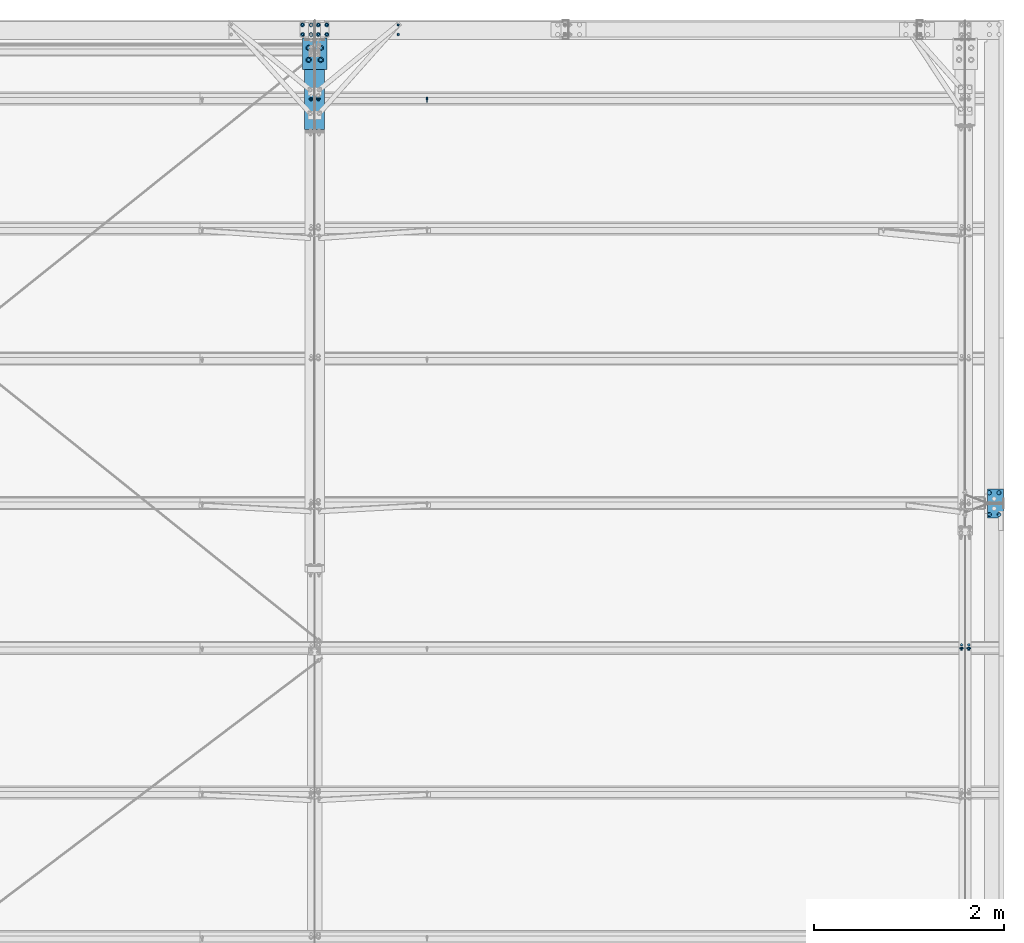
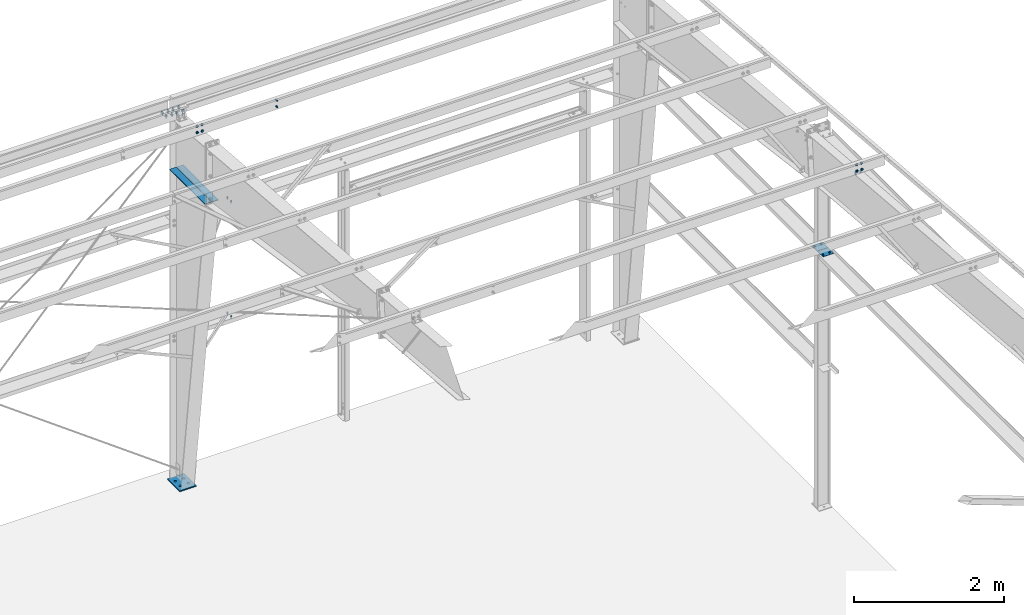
# One storey, part 115 of 185: 15 mechanical fasteners, 5 discrete accessories, 10 elements without a shape of their own.
"""IFC2X3 building model written with IfcOpenShell, lengths in millimetres."""

import ifcopenshell
import ifcopenshell.guid

model = None  # the IFC model being written
_history = None  # IfcOwnerHistory: only IFC2X3 demands one
_inside = {}  # id of a spatial element -> (the spatial element, [elements in it])
_under = {}  # id of a project, library or spatial element -> (it, [spatial elements below it])
_declared = {}  # id of a project -> (the project, [libraries it declares])
_typed = {}  # id of a type object -> (the type object, [elements of that type])
_made_of = {}  # id of a material, layer set ... -> (it, [elements and type objects made of it])


def new_model(schema):
    """Start an empty IFC model of exactly this schema.

    Asked for "IFC4X3", IfcOpenShell would pick the latest addendum, in which some entities
    have other attributes; the version numbers below select the first issue.
    IFC2X3 requires an IfcOwnerHistory on every rooted entity: one is made here for all.
    """
    global model, _history
    if schema == "IFC4X3":
        model = ifcopenshell.file(schema_version=(4, 3, 0, 0))
    else:
        model = ifcopenshell.file(schema=schema)
    _inside.clear()
    _under.clear()
    _declared.clear()
    _typed.clear()
    _made_of.clear()
    _history = None
    if model.schema == "IFC2X3":
        org = make("IfcOrganization", Name="unknown")
        user = make(
            "IfcPersonAndOrganization",
            ThePerson=make("IfcPerson", FamilyName="unknown"),
            TheOrganization=org,
        )
        app = make(
            "IfcApplication",
            ApplicationDeveloper=org,
            Version="unknown",
            ApplicationFullName="unknown",
            ApplicationIdentifier="unknown",
        )
        _history = make(
            "IfcOwnerHistory",
            OwningUser=user,
            OwningApplication=app,
            ChangeAction="ADDED",
            CreationDate=0,
        )
    return model


def make(cls, **values):
    """One entity of the class cls with the attributes given. An attribute that is None is left unset."""
    return model.create_entity(
        cls, **{name: value for name, value in values.items() if value is not None}
    )


def rooted(cls, **values):
    """An entity with a GlobalId (a new one), such as an element, a storey or a relation."""
    return make(cls, GlobalId=ifcopenshell.guid.new(), OwnerHistory=_history, **values)


def si_unit(unit_type, name, prefix=None):
    """IfcSIUnit, for example si_unit("LENGTHUNIT", "METRE", prefix="MILLI")."""
    return make("IfcSIUnit", UnitType=unit_type, Prefix=prefix, Name=name)


def assignment(units):
    """IfcUnitAssignment: the units of a project."""
    return None if units is None else make("IfcUnitAssignment", Units=units)


def point(xyz):
    """IfcCartesianPoint."""
    return None if xyz is None else make("IfcCartesianPoint", Coordinates=xyz)


def direction(xyz):
    """IfcDirection."""
    return None if xyz is None else make("IfcDirection", DirectionRatios=xyz)


def frame(location, z_axis=None, x_axis=None):
    """IfcAxis2Placement3D, a coordinate frame: its origin and axes. An axis left out is left unset."""
    return make(
        "IfcAxis2Placement3D",
        Location=point(location),
        Axis=direction(z_axis),
        RefDirection=direction(x_axis),
    )


def frame_2d(location, x_axis=None):
    """IfcAxis2Placement2D, a coordinate frame in the plane: its origin and x axis."""
    return make(
        "IfcAxis2Placement2D", Location=point(location), RefDirection=direction(x_axis)
    )


def origin_with_axes():
    """The frame at (0, 0, 0) with the z axis (0, 0, 1) and the x axis (1, 0, 0) written out."""
    return frame((0.0, 0.0, 0.0), z_axis=(0.0, 0.0, 1.0), x_axis=(1.0, 0.0, 0.0))


def origin_2d_with_axis():
    """The frame at (0, 0) in the plane with the x axis (1, 0) written out."""
    return frame_2d((0.0, 0.0), x_axis=(1.0, 0.0))


def place(relative_to, where):
    """IfcLocalPlacement: puts the frame where relative to a parent placement (None: the world)."""
    return make(
        "IfcLocalPlacement", PlacementRelTo=relative_to, RelativePlacement=where
    )


def context(
    kind, dimensions, precision=None, world=None, true_north=None, identifier=None
):
    """IfcGeometricRepresentationContext, for example the 3D "Model" context."""
    return make(
        "IfcGeometricRepresentationContext",
        ContextIdentifier=identifier,
        ContextType=kind,
        CoordinateSpaceDimension=dimensions,
        Precision=precision,
        WorldCoordinateSystem=world,
        TrueNorth=true_north,
    )


def subcontext(parent, identifier, kind, view, scale=None):
    """IfcGeometricRepresentationSubContext, for example "Body" below "Model"."""
    return make(
        "IfcGeometricRepresentationSubContext",
        ContextIdentifier=identifier,
        ContextType=kind,
        ParentContext=parent,
        TargetScale=scale,
        TargetView=view,
    )


def project(units=None, contexts=None):
    """IfcProject with its units and contexts."""
    return rooted(
        "IfcProject",
        Name="project",
        RepresentationContexts=contexts,
        UnitsInContext=assignment(units),
    )


def spatial(cls, under=None, at=None, **own):
    """A site, building, storey or space (cls), placed at a placement, below another one or the project."""
    s = rooted(cls, ObjectPlacement=at, **own)
    if under is not None:
        _under.setdefault(under.id(), (under, []))[1].append(s)
    return s


def polyline(points):
    """IfcPolyline through the points."""
    return make("IfcPolyline", Points=[point(p) for p in points])


def circle_curve(where, radius):
    """IfcCircle in the frame where."""
    return make("IfcCircle", Position=where, Radius=radius)


def parameter(value):
    """IfcParameterValue: where a trimmed curve begins or ends, as a parameter of its basis curve."""
    return model.create_entity("IfcParameterValue", value)


def trimmed(basis, trim1, trim2, sense, master):
    """IfcTrimmedCurve: the piece of a basis curve between two trims."""
    return make(
        "IfcTrimmedCurve",
        BasisCurve=basis,
        Trim1=trim1,
        Trim2=trim2,
        SenseAgreement=sense,
        MasterRepresentation=master,
    )


def segment(curve, same_sense, transition):
    """IfcCompositeCurveSegment."""
    return make(
        "IfcCompositeCurveSegment",
        Transition=transition,
        SameSense=same_sense,
        ParentCurve=curve,
    )


def composite_curve(segments, self_intersect=None):
    """IfcCompositeCurve: segments joined end to end."""
    return make("IfcCompositeCurve", Segments=segments, SelfIntersect=self_intersect)


def profile(cls, at=None, kind="AREA", **sizes):
    """A parametric profile (cls). Its sizes go by their IFC names, for example OverallWidth=200.0."""
    return make(cls, ProfileType=kind, Position=at, **sizes)


def rectangle(**sizes):
    """IfcRectangleProfileDef."""
    return profile("IfcRectangleProfileDef", **sizes)


def circle(**sizes):
    """IfcCircleProfileDef."""
    return profile("IfcCircleProfileDef", **sizes)


def outline(outer, holes=None, kind="AREA"):
    """IfcArbitraryClosedProfileDef: a profile drawn as a closed curve; with holes, ...WithVoids."""
    if holes is None:
        return make("IfcArbitraryClosedProfileDef", ProfileType=kind, OuterCurve=outer)
    return make(
        "IfcArbitraryProfileDefWithVoids",
        ProfileType=kind,
        OuterCurve=outer,
        InnerCurves=holes,
    )


def extrude(swept, where, along, depth):
    """IfcExtrudedAreaSolid: the profile swept, set in the frame where, extruded along a direction by depth."""
    return make(
        "IfcExtrudedAreaSolid",
        SweptArea=swept,
        Position=where,
        ExtrudedDirection=direction(along),
        Depth=depth,
    )


def shape(context_of_items, identifier, shape_type, items):
    """IfcShapeRepresentation: the items that make up one representation, for example the "Body"."""
    return make(
        "IfcShapeRepresentation",
        ContextOfItems=context_of_items,
        RepresentationIdentifier=identifier,
        RepresentationType=shape_type,
        Items=items,
    )


def source(mapping_origin, context_of_items, identifier, shape_type, items):
    """IfcRepresentationMap: a shape defined once, which mapped items show again and again."""
    return make(
        "IfcRepresentationMap",
        MappingOrigin=mapping_origin,
        MappedRepresentation=shape(context_of_items, identifier, shape_type, items),
    )


def transform(
    local_origin,
    x_axis=None,
    y_axis=None,
    z_axis=None,
    scale=None,
    scale2=None,
    scale3=None,
    uniform=True,
):
    """IfcCartesianTransformationOperator3D, or its non-uniform kind. x_axis, y_axis, z_axis: its Axis1, 2, 3."""
    if uniform:
        return make(
            "IfcCartesianTransformationOperator3D",
            Axis1=direction(x_axis),
            Axis2=direction(y_axis),
            LocalOrigin=point(local_origin),
            Scale=scale,
            Axis3=direction(z_axis),
        )
    return make(
        "IfcCartesianTransformationOperator3DnonUniform",
        Axis1=direction(x_axis),
        Axis2=direction(y_axis),
        LocalOrigin=point(local_origin),
        Scale=scale,
        Axis3=direction(z_axis),
        Scale2=scale2,
        Scale3=scale3,
    )


def mapped(mapping_source, mapping_target):
    """IfcMappedItem: shows the shape of a source again, moved by a transform."""
    return make(
        "IfcMappedItem", MappingSource=mapping_source, MappingTarget=mapping_target
    )


def material(Name=None, Category=None):
    """IfcMaterial."""
    return make("IfcMaterial", Name=Name, Category=Category)


def made_of(thing, what):
    """Note that an element or type object is made of a material, layer set ...; save() writes the relation."""
    if what is not None:
        _made_of.setdefault(what.id(), (what, []))[1].append(thing)
    return thing


def type_object(cls, material=None, **own):
    """A type object (cls), such as IfcWallType, which elements share."""
    return made_of(rooted(cls, **own), material)


def element(
    cls,
    number,
    at=None,
    inside=None,
    cuts=None,
    type_object=None,
    material=None,
    context=None,
    identifier="Body",
    shape_type=None,
    held_by="IfcProductDefinitionShape",
    body=None,
    shapes=None,
    **own,
):
    """One element of the class cls, such as IfcWall. Its Tag is "e" and its number.

    at: its placement. inside: the storey or other place that contains it. cuts: it is an
    opening in that element (IfcRelVoidsElement). A single representation is given by context,
    identifier, shape_type and body (its items); several are given by shapes. held_by: the class
    of the entity that holds the representations. save() writes the other relations.
    """
    e = rooted(cls, Tag="e%d" % number, ObjectPlacement=at, **own)
    if body is not None:
        shapes = [shape(context, identifier, shape_type, body)]
    if shapes is not None:
        e.Representation = make(held_by, Representations=shapes)
    if inside is not None:
        _inside.setdefault(inside.id(), (inside, []))[1].append(e)
    if cuts is not None:
        rooted(
            "IfcRelVoidsElement", RelatingBuildingElement=cuts, RelatedOpeningElement=e
        )
    if type_object is not None:
        _typed.setdefault(type_object.id(), (type_object, []))[1].append(e)
    return made_of(e, material)


def aggregate(whole, parts):
    """IfcRelAggregates: a whole, such as a stair, and the parts it consists of."""
    return rooted("IfcRelAggregates", RelatingObject=whole, RelatedObjects=parts)


def save(model, path):
    """Write the relations noted so far, then the file.

    IfcRelAggregates (storeys below a building ...), IfcRelContainedInSpatialStructure (elements
    in a storey), IfcRelDefinesByType, IfcRelAssociatesMaterial and IfcRelDeclares: one each for
    every whole, place, type object, material and project.
    """
    for whole, parts in _under.values():
        aggregate(whole, parts)
    for where, things in _inside.values():
        rooted(
            "IfcRelContainedInSpatialStructure",
            RelatedElements=things,
            RelatingStructure=where,
        )
    for kind, things in _typed.values():
        rooted("IfcRelDefinesByType", RelatedObjects=things, RelatingType=kind)
    for what, things in _made_of.values():
        rooted("IfcRelAssociatesMaterial", RelatedObjects=things, RelatingMaterial=what)
    for by, libraries in _declared.values():
        rooted("IfcRelDeclares", RelatingContext=by, RelatedDefinitions=libraries)
    model.write(path)


model = new_model("IFC2X3")

# Units and contexts
model_context = context("Model", 3, precision=1e-05, world=origin_with_axes())
body_context = subcontext(model_context, "Body", "Model", "MODEL_VIEW")
ifc_project = project(units=[si_unit("LENGTHUNIT", "METRE", prefix="MILLI"), si_unit("AREAUNIT", "SQUARE_METRE"), si_unit("VOLUMEUNIT", "CUBIC_METRE"), si_unit("MASSUNIT", "GRAM", prefix="KILO"), si_unit("TIMEUNIT", "SECOND"), si_unit("PLANEANGLEUNIT", "RADIAN"), si_unit("SOLIDANGLEUNIT", "STERADIAN"), si_unit("THERMODYNAMICTEMPERATUREUNIT", "DEGREE_CELSIUS"), si_unit("LUMINOUSINTENSITYUNIT", "LUMEN")], contexts=[model_context])

# Site, building, storey
site_placement = place(None, origin_with_axes())
site = spatial("IfcSite", under=ifc_project, at=site_placement, Name="Undefined", CompositionType="ELEMENT")
building_placement = place(site_placement, origin_with_axes())
building = spatial("IfcBuilding", under=site, at=building_placement, Name="Undefined", CompositionType="ELEMENT")
storey_placement = place(building_placement, origin_with_axes())
storey = spatial("IfcBuildingStorey", under=building, at=storey_placement, Name="Undefined", CompositionType="ELEMENT", Elevation=0.0)

# Assembly, discrete accessories
assembly_1_placement = place(storey_placement, origin_with_axes())
assembly_1 = element("IfcElementAssembly", 1, at=assembly_1_placement, inside=storey, Name="Steel Assembly", AssemblyPlace="NOTDEFINED", PredefinedType="RIGID_FRAME")
ifc_material_1 = material(Name="STEEL/55")
discrete_accessory_type_1 = type_object("IfcDiscreteAccessoryType", Name="XP-38")
discrete_accessory_1_placement = place(assembly_1_placement, frame((44868.703125, 26920.902788, 4167.98125), z_axis=(-1.0, 0.0, 0.0), x_axis=(0.0, -1.0, 0.0)))
discrete_accessory_1 = element("IfcDiscreteAccessory", 2, at=discrete_accessory_1_placement, type_object=discrete_accessory_type_1, material=ifc_material_1, Name="XP-38", ObjectType="PL3/16\"X5 7/8\"", context=body_context, shape_type="SweptSolid", body=[
    extrude(rectangle(XDim=4.7625, YDim=168.275, at=origin_2d_with_axis()), frame((149.224999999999, 0.0, 0.0), z_axis=(-1.0, 0.0, 0.0), x_axis=(0.0, -1.0, 0.0)), (0.0, 0.0, 1.0), 149.2),
])
discrete_accessory_2_placement = place(assembly_1_placement, frame((44868.703125, 26927.097212, 4167.98125), z_axis=(-1.0, 0.0, 0.0), x_axis=(0.0, 1.0, 0.0)))
discrete_accessory_2 = element("IfcDiscreteAccessory", 3, at=discrete_accessory_2_placement, type_object=discrete_accessory_type_1, material=ifc_material_1, Name="XP-38", ObjectType="PL3/16\"X5 7/8\"", context=body_context, shape_type="SweptSolid", body=[
    extrude(rectangle(XDim=4.7625, YDim=168.275, at=origin_2d_with_axis()), frame((149.224999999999, 0.0, 0.0), z_axis=(-1.0, 0.0, 0.0), x_axis=(0.0, -1.0, 0.0)), (0.0, 0.0, 1.0), 149.2),
])

assembly_2_placement = place(storey_placement, origin_with_axes())
assembly_2 = element("IfcElementAssembly", 4, at=assembly_2_placement, inside=storey, Name="Steel Assembly", AssemblyPlace="NOTDEFINED", PredefinedType="RIGID_FRAME")
discrete_accessory_type_2 = type_object("IfcDiscreteAccessoryType", Name="Stiff")
discrete_accessory_3_placement = place(assembly_2_placement, frame((37664.23125, 31792.926, 5059.01498446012), z_axis=(1.0, 0.0, 0.0), x_axis=(0.0, -1.0, 0.0)))
discrete_accessory_3 = element("IfcDiscreteAccessory", 5, at=discrete_accessory_3_placement, type_object=discrete_accessory_type_2, material=ifc_material_1, Name="Stiff", ObjectType="FL3/8\"X4\"", context=body_context, shape_type="SweptSolid", body=[
    extrude(rectangle(XDim=9.525, YDim=101.6, at=origin_2d_with_axis()), frame((939.799999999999, 0.0, 0.0), z_axis=(-1.0, 0.0, 0.0), x_axis=(0.0, -1.0, 0.0)), (0.0, 0.0, 1.0), 939.8),
])
discrete_accessory_4_placement = place(assembly_2_placement, frame((37773.76875, 31792.926, 5059.01498446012), z_axis=(1.0, 0.0, 0.0), x_axis=(0.0, -1.0, 0.0)))
discrete_accessory_4 = element("IfcDiscreteAccessory", 6, at=discrete_accessory_4_placement, type_object=discrete_accessory_type_2, material=ifc_material_1, Name="Stiff", ObjectType="FL3/8\"X4\"", context=body_context, shape_type="SweptSolid", body=[
    extrude(rectangle(XDim=9.525, YDim=101.6, at=origin_2d_with_axis()), frame((939.799999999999, 0.0, 0.0), z_axis=(-1.0, 0.0, 0.0), x_axis=(0.0, -1.0, 0.0)), (0.0, 0.0, 1.0), 939.8),
])

# Assembly, mechanical fasteners
assembly_3_placement = place(storey_placement, origin_with_axes())
assembly_3 = element("IfcElementAssembly", 7, at=assembly_3_placement, inside=storey, Name="Steel Assembly", AssemblyPlace="NOTDEFINED", PredefinedType="RIGID_FRAME")
ifc_material_2 = material(Name="Undefined")
discrete_accessory_type_3 = type_object("IfcDiscreteAccessoryType", Name="Bolt assembly")
shared_shape_1 = source(origin_with_axes(), body_context, "Body", "SweptSolid", [
    extrude(circle(Radius=7.14374971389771, at=origin_2d_with_axis()), frame((0.0, -1.59000001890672, 0.0), z_axis=(0.0, 1.0, 0.0), x_axis=(1.0, 0.0, 0.0)), (0.0, 0.0, 1.0), 3.3),
    extrude(circle(Radius=13.4937496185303, at=origin_2d_with_axis()), frame((0.0, -5.5587500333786, 0.0), z_axis=(0.0, 1.0, 0.0), x_axis=(1.0, 0.0, 0.0)), (0.0, 0.0, 1.0), 4.0),
    extrude(circle(Radius=22.2250003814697, at=origin_2d_with_axis()), frame((0.0, 1.5900000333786, 0.0), z_axis=(0.0, 1.0, 0.0), x_axis=(1.0, 0.0, 0.0)), (0.0, 0.0, 1.0), 7.9),
    extrude(outline(polyline([(12.8316099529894, 0.0), (6.4158049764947, 11.1125001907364), (-6.4158049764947, 11.1125001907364), (-12.8316099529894, 0.0), (-6.4158049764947, -11.1125001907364), (6.4158049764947, -11.1125001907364), (12.8316099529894, 0.0)])), frame((0.0, 9.5275000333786, 0.0), z_axis=(0.0, 1.0, 0.0), x_axis=(1.0, 0.0, 0.0)), (0.0, 0.0, 1.0), 12.3),
])
mechanical_fastener_1_placement = place(assembly_3_placement, frame((44513.5, 25413.942425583, 6594.19538193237), z_axis=(-1.0, 0.0, 0.0), x_axis=(0.0, -0.0830454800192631, -0.996545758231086)))
mechanical_fastener_1 = element("IfcMechanicalFastener", 8, at=mechanical_fastener_1_placement, type_object=discrete_accessory_type_3, material=ifc_material_2, Name="Bolt assembly", NominalDiameter=12.6999998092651, NominalLength=38.0999984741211, context=body_context, shape_type="MappedRepresentation", body=[
    mapped(shared_shape_1, transform((0.0, 0.0, 0.0))),
    mapped(shared_shape_1, transform((101.599998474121, 0.0, 0.0))),
])
mechanical_fastener_2_placement = place(assembly_3_placement, frame((44589.7, 25413.942425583, 6594.19538193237), z_axis=(-1.0, 0.0, 0.0), x_axis=(0.0, -0.0830454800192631, -0.996545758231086)))
mechanical_fastener_2 = element("IfcMechanicalFastener", 9, at=mechanical_fastener_2_placement, type_object=discrete_accessory_type_3, material=ifc_material_2, Name="Bolt assembly", NominalDiameter=12.6999998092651, NominalLength=38.0999984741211, context=body_context, shape_type="MappedRepresentation", body=[
    mapped(shared_shape_1, transform((0.0, 0.0, 0.0))),
    mapped(shared_shape_1, transform((101.599998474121, 0.0, 0.0))),
])

# Assembly, mechanical fastener
assembly_4_placement = place(storey_placement, origin_with_axes())
assembly_4 = element("IfcElementAssembly", 10, at=assembly_4_placement, inside=storey, Name="Steel Assembly", AssemblyPlace="NOTDEFINED", PredefinedType="RIGID_FRAME")
mechanical_fastener_3_placement = place(assembly_4_placement, frame((37680.9, 31185.1382206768, 6113.2623980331), z_axis=(-1.0, 0.0, 0.0), x_axis=(0.0, -0.0830454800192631, -0.996545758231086)))
mechanical_fastener_3 = element("IfcMechanicalFastener", 11, at=mechanical_fastener_3_placement, type_object=discrete_accessory_type_3, material=ifc_material_2, Name="Bolt assembly", NominalDiameter=12.6999998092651, NominalLength=38.0999984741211, context=body_context, shape_type="MappedRepresentation", body=[
    mapped(shared_shape_1, transform((0.0, 0.0, 0.0))),
    mapped(shared_shape_1, transform((101.599998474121, 0.0, 0.0))),
])
aggregate(assembly_4, [mechanical_fastener_3])

assembly_5_placement = place(storey_placement, origin_with_axes())
assembly_5 = element("IfcElementAssembly", 12, at=assembly_5_placement, inside=storey, Name="Steel Assembly", AssemblyPlace="NOTDEFINED", PredefinedType="RIGID_FRAME")
mechanical_fastener_4_placement = place(assembly_5_placement, frame((37757.1, 31185.1382206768, 6113.2623980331), z_axis=(-1.0, 0.0, 0.0), x_axis=(0.0, -0.0830454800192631, -0.996545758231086)))
mechanical_fastener_4 = element("IfcMechanicalFastener", 13, at=mechanical_fastener_4_placement, type_object=discrete_accessory_type_3, material=ifc_material_2, Name="Bolt assembly", NominalDiameter=12.6999998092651, NominalLength=38.0999984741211, context=body_context, shape_type="MappedRepresentation", body=[
    mapped(shared_shape_1, transform((0.0, 0.0, 0.0))),
    mapped(shared_shape_1, transform((101.599998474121, 0.0, 0.0))),
])

# Mechanical fastener
shared_shape_2 = source(origin_with_axes(), body_context, "Body", "SweptSolid", [
    extrude(circle(Radius=7.14374971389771, at=origin_2d_with_axis()), frame((0.0, -1.69000003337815, 0.0), z_axis=(0.0, 1.0, 0.0), x_axis=(1.0, 0.0, 0.0)), (0.0, 0.0, 1.0), 3.3),
    extrude(outline(composite_curve([segment(polyline([(-5.953125, 7.14374971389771), (5.953125, 7.14374971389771)]), True, "CONTINUOUS"), segment(trimmed(circle_curve(frame_2d((5.953125, 0.0), x_axis=(0.0, 1.0)), 7.1), [parameter(0.0)], [parameter(3.14159265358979)], False, "PARAMETER"), True, "CONTINUOUS"), segment(polyline([(5.953125, -7.14374971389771), (-5.953125, -7.14374971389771)]), True, "CONTINUOUS"), segment(trimmed(circle_curve(frame_2d((-5.953125, 0.0), x_axis=(0.0, -1.0)), 7.1), [parameter(0.0)], [parameter(3.14159265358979)], False, "PARAMETER"), True, "DISCONTINUOUS")], self_intersect=False)), frame((0.0, -4.66250000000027, 0.0), z_axis=(0.0, 1.0, 0.0), x_axis=(1.0, 0.0, 0.0)), (0.0, 0.0, 1.0), 4.8),
    extrude(outline(polyline([(10.9985221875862, 0.0), (5.4992610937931, 9.52499961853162), (-5.4992610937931, 9.52499961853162), (-10.9985221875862, 0.0), (-5.4992610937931, -9.52499961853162), (5.4992610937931, -9.52499961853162), (10.9985221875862, 0.0)])), frame((0.0, -18.2562496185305, 0.0), z_axis=(0.0, 1.0, 0.0), x_axis=(1.0, 0.0, 0.0)), (0.0, 0.0, 1.0), 9.5),
    extrude(circle(Radius=6.34999990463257, at=origin_2d_with_axis()), frame((0.0, -8.73125000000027, 0.0), z_axis=(0.0, 1.0, 0.0), x_axis=(1.0, 0.0, 0.0)), (0.0, 0.0, 1.0), 38.1),
    extrude(circle(Radius=13.4937496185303, at=origin_2d_with_axis()), frame((0.0, -8.73125000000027, 0.0), z_axis=(0.0, 1.0, 0.0), x_axis=(1.0, 0.0, 0.0)), (0.0, 0.0, 1.0), 4.0),
    extrude(circle(Radius=22.2250003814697, at=origin_2d_with_axis()), frame((0.0, 1.5900000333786, 0.0), z_axis=(0.0, 1.0, 0.0), x_axis=(1.0, 0.0, 0.0)), (0.0, 0.0, 1.0), 7.9),
    extrude(outline(polyline([(12.8316099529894, 0.0), (6.4158049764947, 11.1125001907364), (-6.4158049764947, 11.1125001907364), (-12.8316099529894, 0.0), (-6.4158049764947, -11.1125001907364), (6.4158049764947, -11.1125001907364), (12.8316099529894, 0.0)])), frame((0.0, 9.5275000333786, 0.0), z_axis=(0.0, 1.0, 0.0), x_axis=(1.0, 0.0, 0.0)), (0.0, 0.0, 1.0), 12.3),
])
mechanical_fastener_5_placement = place(assembly_1_placement, frame((44907.2, 26809.7, 4165.6), z_axis=(0.0, -1.0, 0.0), x_axis=(-1.0, 0.0, 0.0)))
mechanical_fastener_5 = element("IfcMechanicalFastener", 14, at=mechanical_fastener_5_placement, type_object=discrete_accessory_type_3, material=ifc_material_2, Name="Bolt assembly", NominalDiameter=12.6999998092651, NominalLength=38.0999984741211, context=body_context, shape_type="MappedRepresentation", body=[
    mapped(shared_shape_2, transform((0.0, 0.0, 0.0))),
    mapped(shared_shape_2, transform((101.599998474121, 0.0, 0.0))),
])

shared_shape_3 = source(origin_with_axes(), body_context, "Body", "SweptSolid", [
    extrude(circle(Radius=7.14374971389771, at=origin_2d_with_axis()), frame((0.0, -1.69000003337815, 0.0), z_axis=(0.0, 1.0, 0.0), x_axis=(1.0, 0.0, 0.0)), (0.0, 0.0, 1.0), 3.3),
    extrude(outline(composite_curve([segment(polyline([(-5.953125, 7.14374971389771), (5.953125, 7.14374971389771)]), True, "CONTINUOUS"), segment(trimmed(circle_curve(frame_2d((5.953125, 0.0), x_axis=(0.0, 1.0)), 7.1), [parameter(0.0)], [parameter(3.14159265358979)], False, "PARAMETER"), True, "CONTINUOUS"), segment(polyline([(5.953125, -7.14374971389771), (-5.953125, -7.14374971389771)]), True, "CONTINUOUS"), segment(trimmed(circle_curve(frame_2d((-5.953125, 0.0), x_axis=(0.0, -1.0)), 7.1), [parameter(0.0)], [parameter(3.14159265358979)], False, "PARAMETER"), True, "DISCONTINUOUS")], self_intersect=False)), frame((0.0, -4.66250000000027, 0.0), z_axis=(0.0, 1.0, 0.0), x_axis=(1.0, 0.0, 0.0)), (0.0, 0.0, 1.0), 4.8),
    extrude(outline(polyline([(10.9985221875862, 0.0), (5.4992610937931, 9.52499961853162), (-5.4992610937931, 9.52499961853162), (-10.9985221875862, 0.0), (-5.4992610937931, -9.52499961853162), (5.4992610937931, -9.52499961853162), (10.9985221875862, 0.0)])), frame((0.0, -18.2562496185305, 0.0), z_axis=(0.0, 1.0, 0.0), x_axis=(1.0, 0.0, 0.0)), (0.0, 0.0, 1.0), 9.5),
    extrude(circle(Radius=6.34999990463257, at=origin_2d_with_axis()), frame((0.0, -8.73125000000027, 0.0), z_axis=(0.0, 1.0, 0.0), x_axis=(1.0, 0.0, 0.0)), (0.0, 0.0, 1.0), 38.1),
    extrude(circle(Radius=13.4937496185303, at=origin_2d_with_axis()), frame((0.0, -8.73125000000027, 0.0), z_axis=(0.0, 1.0, 0.0), x_axis=(1.0, 0.0, 0.0)), (0.0, 0.0, 1.0), 4.0),
    extrude(circle(Radius=22.2250003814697, at=origin_2d_with_axis()), frame((0.0, 1.5900000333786, 0.0), z_axis=(0.0, 1.0, 0.0), x_axis=(1.0, 0.0, 0.0)), (0.0, 0.0, 1.0), 7.9),
    extrude(outline(polyline([(12.8316099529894, 0.0), (6.4158049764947, 11.1125001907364), (-6.4158049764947, 11.1125001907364), (-12.8316099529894, 0.0), (-6.4158049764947, -11.1125001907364), (6.4158049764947, -11.1125001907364), (12.8316099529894, 0.0)])), frame((0.0, 9.5275000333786, 0.0), z_axis=(0.0, 1.0, 0.0), x_axis=(1.0, 0.0, 0.0)), (0.0, 0.0, 1.0), 12.3),
])
mechanical_fastener_6_placement = place(assembly_1_placement, frame((44907.2, 27038.3, 4165.6), z_axis=(0.0, -1.0, 0.0), x_axis=(-1.0, 0.0, 0.0)))
mechanical_fastener_6 = element("IfcMechanicalFastener", 15, at=mechanical_fastener_6_placement, type_object=discrete_accessory_type_3, material=ifc_material_2, Name="Bolt assembly", NominalDiameter=12.6999998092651, NominalLength=38.0999984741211, context=body_context, shape_type="MappedRepresentation", body=[
    mapped(shared_shape_3, transform((0.0, 0.0, 0.0))),
    mapped(shared_shape_3, transform((101.599998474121, 0.0, 0.0))),
])

aggregate(assembly_1, [mechanical_fastener_5, mechanical_fastener_6, discrete_accessory_1, discrete_accessory_2])

# Discrete accessory
discrete_accessory_type_4 = type_object("IfcDiscreteAccessoryType", Name="Base Plate")
discrete_accessory_5_placement = place(assembly_2_placement, frame((37719.0, 31813.4999998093, 7.93750000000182), z_axis=(-1.0, 0.0, 0.0), x_axis=(0.0, -1.0, 0.0)))
discrete_accessory_5 = element("IfcDiscreteAccessory", 16, at=discrete_accessory_5_placement, type_object=discrete_accessory_type_4, material=ifc_material_1, Name="Base Plate", ObjectType="FL5/8\"X10\"", context=body_context, shape_type="SweptSolid", body=[
    extrude(rectangle(XDim=15.875, YDim=254.0, at=origin_2d_with_axis()), frame((330.309933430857, 0.0, 0.0), z_axis=(-1.0, 0.0, 0.0), x_axis=(0.0, -1.0, 0.0)), (0.0, 0.0, 1.0), 330.3),
])

# Assembly, mechanical fastener
assembly_6_placement = place(storey_placement, origin_with_axes())
assembly_6 = element("IfcElementAssembly", 17, at=assembly_6_placement, inside=storey, Name="Steel Assembly", AssemblyPlace="NOTDEFINED", PredefinedType="RIGID_FRAME")
shared_shape_4 = source(origin_with_axes(), body_context, "Body", "SweptSolid", [
    extrude(circle(Radius=7.14374971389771, at=origin_2d_with_axis()), frame((0.0, -1.69000003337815, 0.0), z_axis=(0.0, 1.0, 0.0), x_axis=(1.0, 0.0, 0.0)), (0.0, 0.0, 1.0), 3.3),
    extrude(circle(Radius=7.14374971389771, at=origin_2d_with_axis()), frame((0.0, -1.4900000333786, 0.0), z_axis=(0.0, 1.0, 0.0), x_axis=(1.0, 0.0, 0.0)), (0.0, 0.0, 1.0), 3.2),
    extrude(outline(polyline([(10.9985221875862, 0.0), (5.4992610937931, 9.52499961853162), (-5.4992610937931, 9.52499961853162), (-10.9985221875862, 0.0), (-5.4992610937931, -9.52499961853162), (5.4992610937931, -9.52499961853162), (10.9985221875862, 0.0)])), frame((0.0, -11.1149996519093, 0.0), z_axis=(0.0, 1.0, 0.0), x_axis=(1.0, 0.0, 0.0)), (0.0, 0.0, 1.0), 9.5),
    extrude(circle(Radius=6.34999990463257, at=origin_2d_with_axis()), frame((0.0, -1.59000001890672, 0.0), z_axis=(0.0, 1.0, 0.0), x_axis=(1.0, 0.0, 0.0)), (0.0, 0.0, 1.0), 38.1),
    extrude(outline(polyline([(12.8316099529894, 0.0), (6.4158049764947, 11.1125001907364), (-6.4158049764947, 11.1125001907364), (-12.8316099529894, 0.0), (-6.4158049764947, -11.1125001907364), (6.4158049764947, -11.1125001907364), (12.8316099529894, 0.0)])), frame((0.0, 1.5900000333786, 0.0), z_axis=(0.0, 1.0, 0.0), x_axis=(1.0, 0.0, 0.0)), (0.0, 0.0, 1.0), 12.3),
])
mechanical_fastener_7_placement = place(assembly_6_placement, frame((38595.3, 31953.2, 2286.0), z_axis=(1.0, 0.0, 0.0), x_axis=(0.0, -1.0, 0.0)))
mechanical_fastener_7 = element("IfcMechanicalFastener", 18, at=mechanical_fastener_7_placement, type_object=discrete_accessory_type_3, material=ifc_material_2, Name="Bolt assembly", NominalDiameter=12.6999998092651, NominalLength=38.0999984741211, context=body_context, shape_type="MappedRepresentation", body=[
    mapped(shared_shape_4, transform((0.0, 0.0, 0.0))),
    mapped(shared_shape_4, transform((101.599998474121, 0.0, 0.0))),
])
aggregate(assembly_6, [mechanical_fastener_7])

assembly_7_placement = place(storey_placement, origin_with_axes())
assembly_7 = element("IfcElementAssembly", 19, at=assembly_7_placement, inside=storey, Name="Steel Assembly", AssemblyPlace="NOTDEFINED", PredefinedType="RIGID_FRAME")
shared_shape_5 = source(origin_with_axes(), body_context, "Body", "SweptSolid", [
    extrude(circle(Radius=7.14374971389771, at=origin_2d_with_axis()), frame((0.0, -1.4900000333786, 0.0), z_axis=(0.0, 1.0, 0.0), x_axis=(1.0, 0.0, 0.0)), (0.0, 0.0, 1.0), 3.2),
    extrude(circle(Radius=7.14374971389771, at=origin_2d_with_axis()), frame((0.0, -1.4900000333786, 0.0), z_axis=(0.0, 1.0, 0.0), x_axis=(1.0, 0.0, 0.0)), (0.0, 0.0, 1.0), 3.2),
    extrude(outline(polyline([(10.9985221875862, 0.0), (5.4992610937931, 9.52499961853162), (-5.4992610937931, 9.52499961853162), (-10.9985221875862, 0.0), (-5.4992610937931, -9.52499961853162), (5.4992610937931, -9.52499961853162), (10.9985221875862, 0.0)])), frame((0.0, -11.1149996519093, 0.0), z_axis=(0.0, 1.0, 0.0), x_axis=(1.0, 0.0, 0.0)), (0.0, 0.0, 1.0), 9.5),
    extrude(circle(Radius=6.34999990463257, at=origin_2d_with_axis()), frame((0.0, -1.59000001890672, 0.0), z_axis=(0.0, 1.0, 0.0), x_axis=(1.0, 0.0, 0.0)), (0.0, 0.0, 1.0), 38.1),
    extrude(outline(polyline([(12.8316099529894, 0.0), (6.4158049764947, 11.1125001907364), (-6.4158049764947, 11.1125001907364), (-12.8316099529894, 0.0), (-6.4158049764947, -11.1125001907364), (6.4158049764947, -11.1125001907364), (12.8316099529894, 0.0)])), frame((0.0, 1.5900000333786, 0.0), z_axis=(0.0, 1.0, 0.0), x_axis=(1.0, 0.0, 0.0)), (0.0, 0.0, 1.0), 12.3),
])
mechanical_fastener_8_placement = place(assembly_7_placement, frame((38595.3, 31953.2, 4165.6), z_axis=(1.0, 0.0, 0.0), x_axis=(0.0, -1.0, 0.0)))
mechanical_fastener_8 = element("IfcMechanicalFastener", 20, at=mechanical_fastener_8_placement, type_object=discrete_accessory_type_3, material=ifc_material_2, Name="Bolt assembly", NominalDiameter=12.6999998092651, NominalLength=38.0999984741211, context=body_context, shape_type="MappedRepresentation", body=[
    mapped(shared_shape_5, transform((0.0, 0.0, 0.0))),
    mapped(shared_shape_5, transform((101.599998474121, 0.0, 0.0))),
])
aggregate(assembly_7, [mechanical_fastener_8])

# Mechanical fastener
mechanical_fastener_9_placement = place(assembly_5_placement, frame((38900.1, 31185.1382206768, 6113.2623980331), z_axis=(-1.0, 0.0, 0.0), x_axis=(0.0, -0.0830454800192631, -0.996545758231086)))
mechanical_fastener_9 = element("IfcMechanicalFastener", 21, at=mechanical_fastener_9_placement, type_object=discrete_accessory_type_3, material=ifc_material_2, Name="Bolt assembly", NominalDiameter=12.6999998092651, NominalLength=38.0999984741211, context=body_context, shape_type="MappedRepresentation", body=[
    mapped(shared_shape_5, transform((0.0, 0.0, 0.0))),
    mapped(shared_shape_5, transform((101.599998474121, 0.0, 0.0))),
])

aggregate(assembly_5, [mechanical_fastener_4, mechanical_fastener_9])

shared_shape_6 = source(origin_with_axes(), body_context, "Body", "SweptSolid", [
    extrude(circle(Radius=7.14374971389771, at=origin_2d_with_axis()), frame((0.0, -0.1, 0.0), z_axis=(0.0, 1.0, 0.0), x_axis=(1.0, 0.0, 0.0)), (0.0, 0.0, 1.0), 6.5),
    extrude(circle(Radius=7.14374971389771, at=origin_2d_with_axis()), frame((0.0, -3.08000006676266, 0.0), z_axis=(0.0, 1.0, 0.0), x_axis=(1.0, 0.0, 0.0)), (0.0, 0.0, 1.0), 3.2),
    extrude(outline(polyline([(10.9985221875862, 0.0), (5.4992610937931, 9.52499961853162), (-5.4992610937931, 9.52499961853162), (-10.9985221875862, 0.0), (-5.4992610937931, -9.52499961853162), (5.4992610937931, -9.52499961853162), (10.9985221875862, 0.0)])), frame((0.0, -16.6737496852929, 0.0), z_axis=(0.0, 1.0, 0.0), x_axis=(1.0, 0.0, 0.0)), (0.0, 0.0, 1.0), 9.5),
    extrude(circle(Radius=6.34999990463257, at=origin_2d_with_axis()), frame((0.0, -7.14875006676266, 0.0), z_axis=(0.0, 1.0, 0.0), x_axis=(1.0, 0.0, 0.0)), (0.0, 0.0, 1.0), 38.1),
    extrude(circle(Radius=13.4937496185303, at=origin_2d_with_axis()), frame((0.0, -7.14875006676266, 0.0), z_axis=(0.0, 1.0, 0.0), x_axis=(1.0, 0.0, 0.0)), (0.0, 0.0, 1.0), 4.0),
    extrude(outline(polyline([(12.8316099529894, 0.0), (6.4158049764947, 11.1125001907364), (-6.4158049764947, 11.1125001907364), (-12.8316099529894, 0.0), (-6.4158049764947, -11.1125001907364), (6.4158049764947, -11.1125001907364), (12.8316099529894, 0.0)])), frame((0.0, 6.35000000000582, 0.0), z_axis=(0.0, 1.0, 0.0), x_axis=(1.0, 0.0, 0.0)), (0.0, 0.0, 1.0), 12.3),
])
mechanical_fastener_10_placement = place(assembly_3_placement, frame((44551.6, 25439.2546878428, 6439.15777559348), z_axis=(-1.0, 0.0, 0.0), x_axis=(0.0, 0.996545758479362, -0.0830454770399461)))
mechanical_fastener_10 = element("IfcMechanicalFastener", 22, at=mechanical_fastener_10_placement, type_object=discrete_accessory_type_3, material=ifc_material_2, Name="Bolt assembly", NominalDiameter=12.6999998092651, NominalLength=38.0999984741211, context=body_context, shape_type="MappedRepresentation", body=[
    mapped(shared_shape_6, transform((0.0, 0.0, -38.0999984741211))),
    mapped(shared_shape_6, transform((0.0, 0.0, 38.0999984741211))),
])

aggregate(assembly_3, [mechanical_fastener_10, mechanical_fastener_1, mechanical_fastener_2])

# Assembly, mechanical fasteners
assembly_8_placement = place(storey_placement, origin_with_axes())
assembly_8 = element("IfcElementAssembly", 23, at=assembly_8_placement, inside=storey, Name="Steel Assembly", AssemblyPlace="NOTDEFINED", PredefinedType="RIGID_FRAME")
shared_shape_7 = source(origin_with_axes(), body_context, "Body", "SweptSolid", [
    extrude(circle(Radius=7.14499998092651, at=origin_2d_with_axis()), frame((0.0, -7.8375000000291, 0.0), z_axis=(0.0, 1.0, 0.0), x_axis=(1.0, 0.0, 0.0)), (0.0, 0.0, 1.0), 6.4),
    extrude(circle(Radius=7.14499998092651, at=origin_2d_with_axis()), frame((0.0, -1.58749999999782, 0.0), z_axis=(0.0, 1.0, 0.0), x_axis=(1.0, 0.0, 0.0)), (0.0, 0.0, 1.0), 1.6),
    extrude(circle(Radius=7.14499998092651, at=origin_2d_with_axis()), frame((0.0, -0.1, 0.0), z_axis=(0.0, 1.0, 0.0), x_axis=(1.0, 0.0, 0.0)), (0.0, 0.0, 1.0), 8.1),
    extrude(outline(polyline([(12.8316099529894, 0.0), (6.4158049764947, 11.1125001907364), (-6.4158049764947, 11.1125001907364), (-12.8316099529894, 0.0), (-6.4158049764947, -11.1125001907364), (6.4158049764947, -11.1125001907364), (12.8316099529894, 0.0)])), frame((0.0, -15.8750000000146, 0.0), z_axis=(0.0, 1.0, 0.0), x_axis=(1.0, 0.0, 0.0)), (0.0, 0.0, 1.0), 7.9),
    extrude(circle(Radius=6.34999990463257, at=origin_2d_with_axis()), frame((0.0, -7.93749389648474, 0.0), z_axis=(0.0, 1.0, 0.0), x_axis=(1.0, 0.0, 0.0)), (0.0, 0.0, 1.0), 50.8),
    extrude(circle(Radius=22.2250003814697, at=origin_2d_with_axis()), frame((0.0, 7.95019856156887, 0.0), z_axis=(0.0, 1.0, 0.0), x_axis=(1.0, 0.0, 0.0)), (0.0, 0.0, 1.0), 7.9),
    extrude(outline(polyline([(12.8316099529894, 0.0), (6.4158049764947, 11.1125001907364), (-6.4158049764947, 11.1125001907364), (-12.8316099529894, 0.0), (-6.4158049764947, -11.1125001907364), (6.4158049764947, -11.1125001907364), (12.8316099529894, 0.0)])), frame((0.0, 15.8876985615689, 0.0), z_axis=(0.0, 1.0, 0.0), x_axis=(1.0, 0.0, 0.0)), (0.0, 0.0, 1.0), 12.3),
])
mechanical_fastener_11_placement = place(assembly_8_placement, frame((37757.1, 31953.3754762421, 5896.3143754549), z_axis=(1.0, 0.0, 0.0), x_axis=(0.0, -0.996545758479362, 0.0830454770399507)))
mechanical_fastener_11 = element("IfcMechanicalFastener", 24, at=mechanical_fastener_11_placement, type_object=discrete_accessory_type_3, material=ifc_material_2, Name="Bolt assembly", NominalDiameter=12.6999998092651, NominalLength=50.7999992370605, context=body_context, shape_type="MappedRepresentation", body=[
    mapped(shared_shape_7, transform((0.0, 0.0, 0.0))),
    mapped(shared_shape_7, transform((101.599998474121, 0.0, 0.0))),
])
shared_shape_8 = source(origin_with_axes(), body_context, "Body", "SweptSolid", [
    extrude(circle(Radius=7.14499998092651, at=origin_2d_with_axis()), frame((0.0, -7.8375000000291, 0.0), z_axis=(0.0, 1.0, 0.0), x_axis=(1.0, 0.0, 0.0)), (0.0, 0.0, 1.0), 6.4),
    extrude(circle(Radius=7.14499998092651, at=origin_2d_with_axis()), frame((0.0, -1.68750355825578, 0.0), z_axis=(0.0, 1.0, 0.0), x_axis=(1.0, 0.0, 0.0)), (0.0, 0.0, 1.0), 1.7),
    extrude(outline(polyline([(12.8316099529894, 0.0), (6.4158049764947, 11.1125001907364), (-6.4158049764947, 11.1125001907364), (-12.8316099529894, 0.0), (-6.4158049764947, -11.1125001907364), (6.4158049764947, -11.1125001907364), (12.8316099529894, 0.0)])), frame((0.0, -15.8750000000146, 0.0), z_axis=(0.0, 1.0, 0.0), x_axis=(1.0, 0.0, 0.0)), (0.0, 0.0, 1.0), 7.9),
    extrude(circle(Radius=6.34999990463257, at=origin_2d_with_axis()), frame((0.0, -7.93749389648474, 0.0), z_axis=(0.0, 1.0, 0.0), x_axis=(1.0, 0.0, 0.0)), (0.0, 0.0, 1.0), 50.8),
    extrude(circle(Radius=22.2250003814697, at=origin_2d_with_axis()), frame((0.0, 0.0, 0.0), z_axis=(0.0, 1.0, 0.0), x_axis=(1.0, 0.0, 0.0)), (0.0, 0.0, 1.0), 7.9),
    extrude(outline(polyline([(12.8316099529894, 0.0), (6.4158049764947, 11.1125001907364), (-6.4158049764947, 11.1125001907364), (-12.8316099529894, 0.0), (-6.4158049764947, -11.1125001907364), (6.4158049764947, -11.1125001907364), (12.8316099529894, 0.0)])), frame((0.0, 7.93750000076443, 0.0), z_axis=(0.0, 1.0, 0.0), x_axis=(1.0, 0.0, 0.0)), (0.0, 0.0, 1.0), 12.3),
])
mechanical_fastener_12_placement = place(assembly_8_placement, frame((37846.0, 31953.3754762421, 5896.3143754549), z_axis=(1.0, 0.0, 0.0), x_axis=(0.0, -0.996545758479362, 0.0830454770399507)))
mechanical_fastener_12 = element("IfcMechanicalFastener", 25, at=mechanical_fastener_12_placement, type_object=discrete_accessory_type_3, material=ifc_material_2, Name="Bolt assembly", NominalDiameter=12.6999998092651, NominalLength=50.7999992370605, context=body_context, shape_type="MappedRepresentation", body=[
    mapped(shared_shape_8, transform((0.0, 0.0, 0.0))),
    mapped(shared_shape_8, transform((101.599998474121, 0.0, 0.0))),
])
aggregate(assembly_8, [mechanical_fastener_11, mechanical_fastener_12])

# Assembly, mechanical fastener
assembly_9_placement = place(storey_placement, origin_with_axes())
assembly_9 = element("IfcElementAssembly", 26, at=assembly_9_placement, inside=storey, Name="Steel Assembly", AssemblyPlace="NOTDEFINED", PredefinedType="RIGID_FRAME")
shared_shape_9 = source(origin_with_axes(), body_context, "Body", "SweptSolid", [
    extrude(circle(Radius=7.14374971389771, at=origin_2d_with_axis()), frame((0.0, -7.8375000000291, 0.0), z_axis=(0.0, 1.0, 0.0), x_axis=(1.0, 0.0, 0.0)), (0.0, 0.0, 1.0), 6.4),
    extrude(circle(Radius=7.14374971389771, at=origin_2d_with_axis()), frame((0.0, -1.68750355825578, 0.0), z_axis=(0.0, 1.0, 0.0), x_axis=(1.0, 0.0, 0.0)), (0.0, 0.0, 1.0), 1.7),
    extrude(outline(polyline([(12.8316099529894, 0.0), (6.4158049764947, 11.1125001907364), (-6.4158049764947, 11.1125001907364), (-12.8316099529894, 0.0), (-6.4158049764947, -11.1125001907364), (6.4158049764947, -11.1125001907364), (12.8316099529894, 0.0)])), frame((0.0, -15.8750000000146, 0.0), z_axis=(0.0, 1.0, 0.0), x_axis=(1.0, 0.0, 0.0)), (0.0, 0.0, 1.0), 7.9),
    extrude(circle(Radius=6.34999990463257, at=origin_2d_with_axis()), frame((0.0, -7.93749389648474, 0.0), z_axis=(0.0, 1.0, 0.0), x_axis=(1.0, 0.0, 0.0)), (0.0, 0.0, 1.0), 50.8),
    extrude(circle(Radius=22.2250003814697, at=origin_2d_with_axis()), frame((0.0, 0.0, 0.0), z_axis=(0.0, 1.0, 0.0), x_axis=(1.0, 0.0, 0.0)), (0.0, 0.0, 1.0), 7.9),
    extrude(outline(polyline([(12.8316099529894, 0.0), (6.4158049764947, 11.1125001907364), (-6.4158049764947, 11.1125001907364), (-12.8316099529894, 0.0), (-6.4158049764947, -11.1125001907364), (6.4158049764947, -11.1125001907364), (12.8316099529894, 0.0)])), frame((0.0, 7.93750000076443, 0.0), z_axis=(0.0, 1.0, 0.0), x_axis=(1.0, 0.0, 0.0)), (0.0, 0.0, 1.0), 12.3),
])
mechanical_fastener_13_placement = place(assembly_9_placement, frame((37592.0, 31953.3754762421, 5896.3143754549), z_axis=(1.0, 0.0, 0.0), x_axis=(0.0, -0.996545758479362, 0.0830454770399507)))
mechanical_fastener_13 = element("IfcMechanicalFastener", 27, at=mechanical_fastener_13_placement, type_object=discrete_accessory_type_3, material=ifc_material_2, Name="Bolt assembly", NominalDiameter=12.6999998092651, NominalLength=50.7999992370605, context=body_context, shape_type="MappedRepresentation", body=[
    mapped(shared_shape_9, transform((0.0, 0.0, 0.0))),
    mapped(shared_shape_9, transform((101.599998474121, 0.0, 0.0))),
])
aggregate(assembly_9, [mechanical_fastener_13])

assembly_10_placement = place(storey_placement, origin_with_axes())
assembly_10 = element("IfcElementAssembly", 28, at=assembly_10_placement, inside=storey, Name="Steel Assembly", AssemblyPlace="NOTDEFINED", PredefinedType="RIGID_FRAME")
shared_shape_10 = source(origin_with_axes(), body_context, "Body", "SweptSolid", [
    extrude(circle(Radius=7.14499998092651, at=origin_2d_with_axis()), frame((0.0, -1.58749999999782, 0.0), z_axis=(0.0, 1.0, 0.0), x_axis=(1.0, 0.0, 0.0)), (0.0, 0.0, 1.0), 1.6),
    extrude(circle(Radius=7.14499998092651, at=origin_2d_with_axis()), frame((0.0, -7.8375000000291, 0.0), z_axis=(0.0, 1.0, 0.0), x_axis=(1.0, 0.0, 0.0)), (0.0, 0.0, 1.0), 6.4),
    extrude(circle(Radius=7.14499998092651, at=origin_2d_with_axis()), frame((0.0, -0.1, 0.0), z_axis=(0.0, 1.0, 0.0), x_axis=(1.0, 0.0, 0.0)), (0.0, 0.0, 1.0), 8.1),
    extrude(outline(polyline([(12.8316099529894, 0.0), (6.4158049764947, 11.1125001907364), (-6.4158049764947, 11.1125001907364), (-12.8316099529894, 0.0), (-6.4158049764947, -11.1125001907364), (6.4158049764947, -11.1125001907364), (12.8316099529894, 0.0)])), frame((0.0, -15.8750000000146, 0.0), z_axis=(0.0, 1.0, 0.0), x_axis=(1.0, 0.0, 0.0)), (0.0, 0.0, 1.0), 7.9),
    extrude(circle(Radius=6.34999990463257, at=origin_2d_with_axis()), frame((0.0, -7.93749389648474, 0.0), z_axis=(0.0, 1.0, 0.0), x_axis=(1.0, 0.0, 0.0)), (0.0, 0.0, 1.0), 50.8),
    extrude(circle(Radius=22.2250003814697, at=origin_2d_with_axis()), frame((0.0, 7.95019856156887, 0.0), z_axis=(0.0, 1.0, 0.0), x_axis=(1.0, 0.0, 0.0)), (0.0, 0.0, 1.0), 7.9),
    extrude(outline(polyline([(12.8316099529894, 0.0), (6.4158049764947, 11.1125001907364), (-6.4158049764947, 11.1125001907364), (-12.8316099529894, 0.0), (-6.4158049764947, -11.1125001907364), (6.4158049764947, -11.1125001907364), (12.8316099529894, 0.0)])), frame((0.0, 15.8876985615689, 0.0), z_axis=(0.0, 1.0, 0.0), x_axis=(1.0, 0.0, 0.0)), (0.0, 0.0, 1.0), 12.3),
])
mechanical_fastener_14_placement = place(assembly_10_placement, frame((37680.9, 31953.3754762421, 5896.3143754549), z_axis=(1.0, 0.0, 0.0), x_axis=(0.0, -0.996545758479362, 0.0830454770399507)))
mechanical_fastener_14 = element("IfcMechanicalFastener", 29, at=mechanical_fastener_14_placement, type_object=discrete_accessory_type_3, material=ifc_material_2, Name="Bolt assembly", NominalDiameter=12.6999998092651, NominalLength=50.7999992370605, context=body_context, shape_type="MappedRepresentation", body=[
    mapped(shared_shape_10, transform((0.0, 0.0, 0.0))),
    mapped(shared_shape_10, transform((101.599998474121, 0.0, 0.0))),
])
aggregate(assembly_10, [mechanical_fastener_14])

# Mechanical fastener
ifc_material_3 = material(Name="7990")
shared_shape_11 = source(origin_with_axes(), body_context, "Body", "SweptSolid", [
    extrude(circle(Radius=18.2562503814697, at=origin_2d_with_axis()), frame((0.0, -15.8750000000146, 0.0), z_axis=(0.0, 1.0, 0.0), x_axis=(1.0, 0.0, 0.0)), (0.0, 0.0, 1.0), 16.0),
    extrude(circle(Radius=28.575, at=origin_2d_with_axis()), frame((0.0, 0.0, 0.0), z_axis=(0.0, 1.0, 0.0), x_axis=(1.0, 0.0, 0.0)), (0.0, 0.0, 1.0), 10.5),
    extrude(outline(polyline([(30.4292459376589, 0.0), (15.2146229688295, 26.3525000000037), (-15.2146229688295, 26.3525000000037), (-30.4292459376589, 0.0), (-15.2146229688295, -26.3525000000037), (15.2146229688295, -26.3525000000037), (30.4292459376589, 0.0)])), frame((0.0, 10.4775, 0.0), z_axis=(0.0, 1.0, 0.0), x_axis=(1.0, 0.0, 0.0)), (0.0, 0.0, 1.0), 21.0),
])
mechanical_fastener_15_placement = place(assembly_2_placement, frame((37719.0, 31711.8999984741, 1.81898940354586e-12), z_axis=(1.0, 0.0, 0.0), x_axis=(0.0, -1.0, 0.0)))
mechanical_fastener_15 = element("IfcMechanicalFastener", 30, at=mechanical_fastener_15_placement, type_object=discrete_accessory_type_3, material=ifc_material_3, Name="Bolt assembly", NominalDiameter=31.75, NominalLength=15.875, context=body_context, shape_type="MappedRepresentation", body=[
    mapped(shared_shape_11, transform((0.0, 0.0, -63.5))),
    mapped(shared_shape_11, transform((127.0, 0.0, -63.5))),
    mapped(shared_shape_11, transform((0.0, 0.0, 63.5))),
    mapped(shared_shape_11, transform((127.0, 0.0, 63.5))),
])

aggregate(assembly_2, [mechanical_fastener_15, discrete_accessory_3, discrete_accessory_4, discrete_accessory_5])

save(model, "model.ifc")
